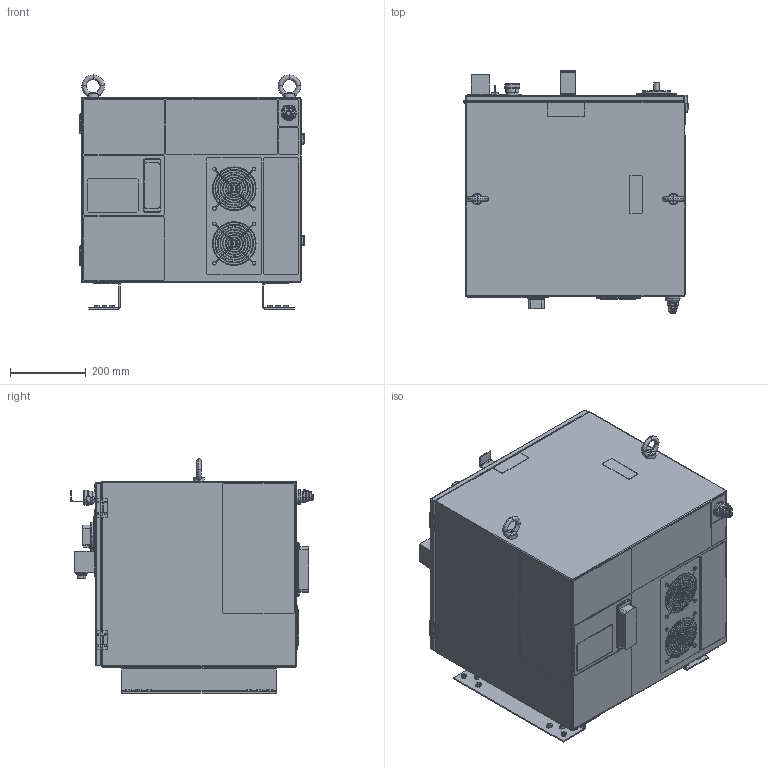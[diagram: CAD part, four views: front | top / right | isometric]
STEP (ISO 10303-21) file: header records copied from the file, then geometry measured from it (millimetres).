
FILE_DESCRIPTION(('CATIA V5 STEP Exchange'),'2;1');
FILE_NAME('C:\Users\rbt00138\Desktop\Controller\FD20\FD20_AS\FD20-x01_2022519\FD20-x01_mount.stp','2022-05-19T01:38:51+00:00',('none'),('none'),'CATIA Version 5-6 Release 2016 SP3','CATIA V5 STEP AP203','none');
FILE_SCHEMA(('CONFIG_CONTROL_DESIGN'));
Products named in the file (1): FD20-x01_mount
Bounding box: 596.5 x 642 x 620 mm (x, y, z)
Volume: 152989784.5 mm3; surface area: 2381584.2 mm2
Topology: 26 solids, 26 shells, 1665 faces, 4405 edges, 2785 vertices
Faces by surface type: plane 1013, cylinder 489, revolution 141, bspline 22
Entity records: 59294 total; most frequent: CARTESIAN_POINT 19538, ORIENTED_EDGE 8666, DIRECTION 6871, EDGE_CURVE 4333, VERTEX_POINT 2785, VECTOR 2681, LINE 2681, AXIS2_PLACEMENT_3D 2548
